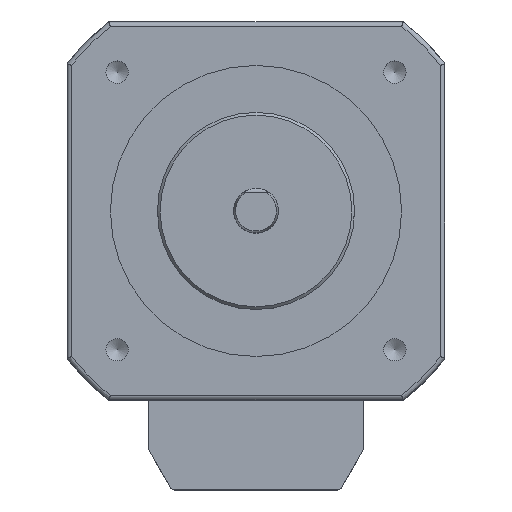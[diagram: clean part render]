
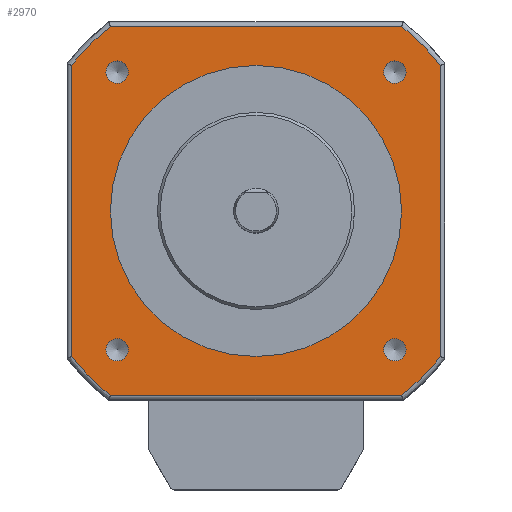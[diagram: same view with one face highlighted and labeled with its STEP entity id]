
A CAD part, top view. The second image highlights one B-rep face of the part: STEP entity #2970.
In plain terms, the highlighted planar face has unit normal (0, 0, 1).
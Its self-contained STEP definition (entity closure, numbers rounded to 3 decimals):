
#2243=CARTESIAN_POINT('',(0.,16.25,34.));
#2244=VERTEX_POINT('',#2243);
#2245=CARTESIAN_POINT('',(0.,0.,34.));
#2246=DIRECTION('',(0.,1.,-0.));
#2247=DIRECTION('',(0.,0.,1.));
#2248=AXIS2_PLACEMENT_3D('',#2245,#2247,#2246);
#2249=CIRCLE('',#2248,16.25);
#2250=EDGE_CURVE('',#2244,#2244,#2249,.T.);
#2510=CARTESIAN_POINT('',(16.268,-20.601,34.));
#2511=VERTEX_POINT('',#2510);
#2519=CARTESIAN_POINT('',(-16.269,-20.6,34.));
#2520=VERTEX_POINT('',#2519);
#2521=CARTESIAN_POINT('',(-16.269,-20.6,34.));
#2522=DIRECTION('',(1.,0.,0.));
#2523=VECTOR('',#2522,32.537);
#2524=LINE('',#2521,#2523);
#2525=EDGE_CURVE('',#2520,#2511,#2524,.T.);
#2583=CARTESIAN_POINT('',(20.6,-16.269,34.));
#2584=VERTEX_POINT('',#2583);
#2592=CARTESIAN_POINT('',(16.268,-20.601,34.));
#2593=CARTESIAN_POINT('',(16.342,-20.542,34.));
#2594=CARTESIAN_POINT('',(16.695,-20.261,34.));
#2595=CARTESIAN_POINT('',(17.311,-19.738,34.));
#2596=CARTESIAN_POINT('',(17.979,-19.131,34.));
#2597=CARTESIAN_POINT('',(18.563,-18.563,34.));
#2598=CARTESIAN_POINT('',(19.131,-17.979,34.));
#2599=CARTESIAN_POINT('',(19.738,-17.311,34.));
#2600=CARTESIAN_POINT('',(20.261,-16.695,34.));
#2601=CARTESIAN_POINT('',(20.542,-16.342,34.));
#2602=CARTESIAN_POINT('',(20.6,-16.269,34.));
#2603=B_SPLINE_CURVE_WITH_KNOTS('',2,(#2592,#2593,#2594,#2595,#2596,#2597,#2598,#2599,#2600,#2601,#2602),.UNSPECIFIED.,.F.,.U.,(3,1,1,1,1,1,1,1,1,3),(0.105,0.129,0.221,0.337,0.453,0.547,0.663,0.779,0.871,0.895),.UNSPECIFIED.);
#2604=EDGE_CURVE('',#2511,#2584,#2603,.T.);
#2616=CARTESIAN_POINT('',(20.601,16.267,34.));
#2617=VERTEX_POINT('',#2616);
#2625=CARTESIAN_POINT('',(20.6,-16.269,34.));
#2626=DIRECTION('',(0.,1.,0.));
#2627=VECTOR('',#2626,32.536);
#2628=LINE('',#2625,#2627);
#2629=EDGE_CURVE('',#2584,#2617,#2628,.T.);
#2685=CARTESIAN_POINT('',(16.269,20.6,34.));
#2686=VERTEX_POINT('',#2685);
#2694=CARTESIAN_POINT('',(20.602,16.267,34.));
#2695=CARTESIAN_POINT('',(20.543,16.341,34.));
#2696=CARTESIAN_POINT('',(20.261,16.695,34.));
#2697=CARTESIAN_POINT('',(19.738,17.311,34.));
#2698=CARTESIAN_POINT('',(19.131,17.979,34.));
#2699=CARTESIAN_POINT('',(18.563,18.563,34.));
#2700=CARTESIAN_POINT('',(17.979,19.131,34.));
#2701=CARTESIAN_POINT('',(17.311,19.738,34.));
#2702=CARTESIAN_POINT('',(16.695,20.261,34.));
#2703=CARTESIAN_POINT('',(16.342,20.542,34.));
#2704=CARTESIAN_POINT('',(16.269,20.6,34.));
#2705=B_SPLINE_CURVE_WITH_KNOTS('',2,(#2694,#2695,#2696,#2697,#2698,#2699,#2700,#2701,#2702,#2703,#2704),.UNSPECIFIED.,.F.,.U.,(3,1,1,1,1,1,1,1,1,3),(0.104,0.129,0.221,0.337,0.453,0.547,0.663,0.779,0.871,0.895),.UNSPECIFIED.);
#2706=EDGE_CURVE('',#2617,#2686,#2705,.T.);
#2718=CARTESIAN_POINT('',(-16.267,20.601,34.));
#2719=VERTEX_POINT('',#2718);
#2727=CARTESIAN_POINT('',(16.269,20.6,34.));
#2728=DIRECTION('',(-1.,0.,0.));
#2729=VECTOR('',#2728,32.536);
#2730=LINE('',#2727,#2729);
#2731=EDGE_CURVE('',#2686,#2719,#2730,.T.);
#2787=CARTESIAN_POINT('',(-20.6,16.269,34.));
#2788=VERTEX_POINT('',#2787);
#2796=CARTESIAN_POINT('',(-16.267,20.602,34.));
#2797=CARTESIAN_POINT('',(-16.341,20.543,34.));
#2798=CARTESIAN_POINT('',(-16.695,20.261,34.));
#2799=CARTESIAN_POINT('',(-17.311,19.738,34.));
#2800=CARTESIAN_POINT('',(-17.979,19.131,34.));
#2801=CARTESIAN_POINT('',(-18.563,18.563,34.));
#2802=CARTESIAN_POINT('',(-19.131,17.979,34.));
#2803=CARTESIAN_POINT('',(-19.738,17.311,34.));
#2804=CARTESIAN_POINT('',(-20.261,16.695,34.));
#2805=CARTESIAN_POINT('',(-20.542,16.342,34.));
#2806=CARTESIAN_POINT('',(-20.6,16.269,34.));
#2807=B_SPLINE_CURVE_WITH_KNOTS('',2,(#2796,#2797,#2798,#2799,#2800,#2801,#2802,#2803,#2804,#2805,#2806),.UNSPECIFIED.,.F.,.U.,(3,1,1,1,1,1,1,1,1,3),(0.104,0.129,0.221,0.337,0.453,0.547,0.663,0.779,0.871,0.895),.UNSPECIFIED.);
#2808=EDGE_CURVE('',#2719,#2788,#2807,.T.);
#2820=CARTESIAN_POINT('',(-20.601,-16.267,34.));
#2821=VERTEX_POINT('',#2820);
#2829=CARTESIAN_POINT('',(-20.6,16.269,34.));
#2830=DIRECTION('',(0.,-1.,0.));
#2831=VECTOR('',#2830,32.536);
#2832=LINE('',#2829,#2831);
#2833=EDGE_CURVE('',#2788,#2821,#2832,.T.);
#2890=CARTESIAN_POINT('',(-20.602,-16.267,34.));
#2891=CARTESIAN_POINT('',(-20.543,-16.341,34.));
#2892=CARTESIAN_POINT('',(-20.261,-16.695,34.));
#2893=CARTESIAN_POINT('',(-19.738,-17.311,34.));
#2894=CARTESIAN_POINT('',(-19.131,-17.979,34.));
#2895=CARTESIAN_POINT('',(-18.563,-18.563,34.));
#2896=CARTESIAN_POINT('',(-17.979,-19.131,34.));
#2897=CARTESIAN_POINT('',(-17.311,-19.738,34.));
#2898=CARTESIAN_POINT('',(-16.695,-20.261,34.));
#2899=CARTESIAN_POINT('',(-16.342,-20.542,34.));
#2900=CARTESIAN_POINT('',(-16.269,-20.6,34.));
#2901=B_SPLINE_CURVE_WITH_KNOTS('',2,(#2890,#2891,#2892,#2893,#2894,#2895,#2896,#2897,#2898,#2899,#2900),.UNSPECIFIED.,.F.,.U.,(3,1,1,1,1,1,1,1,1,3),(0.104,0.129,0.221,0.337,0.453,0.547,0.663,0.779,0.871,0.895),.UNSPECIFIED.);
#2902=EDGE_CURVE('',#2821,#2520,#2901,.T.);
#2908=CARTESIAN_POINT('',(0.,-0.649,34.));
#2909=DIRECTION('',(1.,0.,0.));
#2910=DIRECTION('',(0.,0.,1.));
#2911=AXIS2_PLACEMENT_3D('',#2908,#2910,#2909);
#2912=PLANE('',#2911);
#2913=ORIENTED_EDGE('',*,*,#2525,.T.);
#2914=ORIENTED_EDGE('',*,*,#2604,.T.);
#2915=ORIENTED_EDGE('',*,*,#2629,.T.);
#2916=ORIENTED_EDGE('',*,*,#2706,.T.);
#2917=ORIENTED_EDGE('',*,*,#2731,.T.);
#2918=ORIENTED_EDGE('',*,*,#2808,.T.);
#2919=ORIENTED_EDGE('',*,*,#2833,.T.);
#2920=ORIENTED_EDGE('',*,*,#2902,.T.);
#2921=EDGE_LOOP('',(#2913,#2914,#2915,#2916,#2917,#2918,#2919,#2920));
#2922=FACE_OUTER_BOUND('',#2921,.T.);
#2923=ORIENTED_EDGE('',*,*,#2250,.F.);
#2924=EDGE_LOOP('',(#2923));
#2925=FACE_BOUND('',#2924,.T.);
#2926=CARTESIAN_POINT('',(16.75,-15.5,34.));
#2927=VERTEX_POINT('',#2926);
#2928=CARTESIAN_POINT('',(15.5,-15.5,34.));
#2929=DIRECTION('',(1.,0.,0.));
#2930=DIRECTION('',(0.,0.,-1.));
#2931=AXIS2_PLACEMENT_3D('',#2928,#2930,#2929);
#2932=CIRCLE('',#2931,1.25);
#2933=EDGE_CURVE('',#2927,#2927,#2932,.T.);
#2934=ORIENTED_EDGE('E236',*,*,#2933,.T.);
#2935=EDGE_LOOP('',(#2934));
#2936=FACE_BOUND('',#2935,.T.);
#2937=CARTESIAN_POINT('',(-14.25,-15.5,34.));
#2938=VERTEX_POINT('',#2937);
#2939=CARTESIAN_POINT('',(-15.5,-15.5,34.));
#2940=DIRECTION('',(1.,0.,-0.));
#2941=DIRECTION('',(0.,-0.,-1.));
#2942=AXIS2_PLACEMENT_3D('',#2939,#2941,#2940);
#2943=CIRCLE('',#2942,1.25);
#2944=EDGE_CURVE('',#2938,#2938,#2943,.T.);
#2945=ORIENTED_EDGE('E243',*,*,#2944,.T.);
#2946=EDGE_LOOP('',(#2945));
#2947=FACE_BOUND('',#2946,.T.);
#2948=CARTESIAN_POINT('',(16.75,15.5,34.));
#2949=VERTEX_POINT('',#2948);
#2950=CARTESIAN_POINT('',(15.5,15.5,34.));
#2951=DIRECTION('',(1.,0.,0.));
#2952=DIRECTION('',(0.,0.,-1.));
#2953=AXIS2_PLACEMENT_3D('',#2950,#2952,#2951);
#2954=CIRCLE('',#2953,1.25);
#2955=EDGE_CURVE('',#2949,#2949,#2954,.T.);
#2956=ORIENTED_EDGE('E229',*,*,#2955,.T.);
#2957=EDGE_LOOP('',(#2956));
#2958=FACE_BOUND('',#2957,.T.);
#2959=CARTESIAN_POINT('',(-14.25,15.5,34.));
#2960=VERTEX_POINT('',#2959);
#2961=CARTESIAN_POINT('',(-15.5,15.5,34.));
#2962=DIRECTION('',(1.,0.,-0.));
#2963=DIRECTION('',(0.,-0.,-1.));
#2964=AXIS2_PLACEMENT_3D('',#2961,#2963,#2962);
#2965=CIRCLE('',#2964,1.25);
#2966=EDGE_CURVE('',#2960,#2960,#2965,.T.);
#2967=ORIENTED_EDGE('E222',*,*,#2966,.T.);
#2968=EDGE_LOOP('',(#2967));
#2969=FACE_BOUND('',#2968,.T.);
#2970=ADVANCED_FACE('F50',(#2922,#2925,#2936,#2947,#2958,#2969),#2912,.T.);
